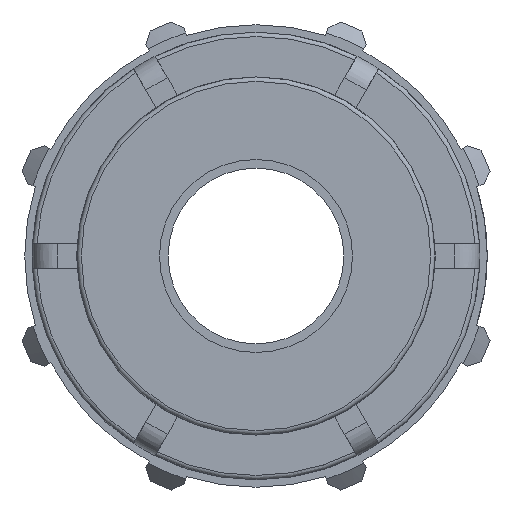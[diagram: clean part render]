
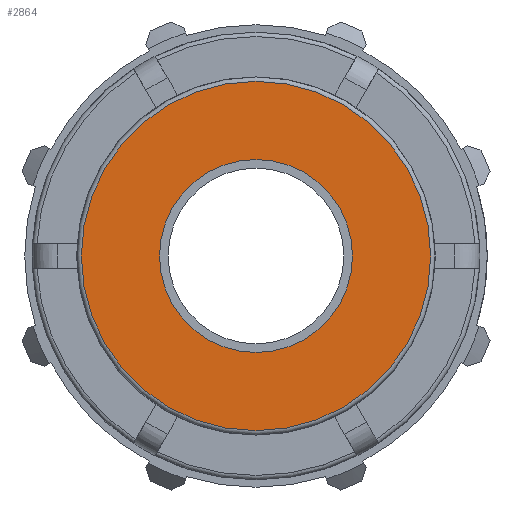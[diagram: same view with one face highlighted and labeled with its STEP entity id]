
A CAD part, left-side view. The second image highlights one B-rep face of the part: STEP entity #2864.
In plain terms, the highlighted planar face has unit normal (-1, 0, 0).
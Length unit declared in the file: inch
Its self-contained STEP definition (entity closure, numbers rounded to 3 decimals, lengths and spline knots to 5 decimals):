
#66=FACE_BOUND('',#814,.T.);
#549=PLANE('',#3106);
#659=FACE_OUTER_BOUND('',#813,.T.);
#813=EDGE_LOOP('',(#2161,#2162));
#814=EDGE_LOOP('',(#2163,#2164));
#973=CIRCLE('',#3103,0.66371);
#974=CIRCLE('',#3104,0.66371);
#976=CIRCLE('',#3107,0.36675);
#977=CIRCLE('',#3108,0.36675);
#1224=VERTEX_POINT('',#4779);
#1225=VERTEX_POINT('',#4781);
#1226=VERTEX_POINT('',#4786);
#1227=VERTEX_POINT('',#4787);
#1570=EDGE_CURVE('',#1224,#1225,#973,.T.);
#1571=EDGE_CURVE('',#1225,#1224,#974,.T.);
#1573=EDGE_CURVE('',#1226,#1227,#976,.T.);
#1574=EDGE_CURVE('',#1227,#1226,#977,.T.);
#2161=ORIENTED_EDGE('',*,*,#1571,.F.);
#2162=ORIENTED_EDGE('',*,*,#1570,.F.);
#2163=ORIENTED_EDGE('',*,*,#1573,.T.);
#2164=ORIENTED_EDGE('',*,*,#1574,.T.);
#2864=ADVANCED_FACE('',(#659,#66),#549,.T.);
#3103=AXIS2_PLACEMENT_3D('',#4782,#3631,#3632);
#3104=AXIS2_PLACEMENT_3D('',#4783,#3633,#3634);
#3106=AXIS2_PLACEMENT_3D('',#4785,#3637,#3638);
#3107=AXIS2_PLACEMENT_3D('',#4788,#3639,#3640);
#3108=AXIS2_PLACEMENT_3D('',#4789,#3641,#3642);
#3631=DIRECTION('center_axis',(1.,0.,0.));
#3632=DIRECTION('ref_axis',(0.,-1.,0.));
#3633=DIRECTION('center_axis',(1.,0.,0.));
#3634=DIRECTION('ref_axis',(0.,-1.,0.));
#3637=DIRECTION('center_axis',(-1.,0.,0.));
#3638=DIRECTION('ref_axis',(0.,0.,1.));
#3639=DIRECTION('center_axis',(1.,0.,0.));
#3640=DIRECTION('ref_axis',(0.,0.,-1.));
#3641=DIRECTION('center_axis',(1.,0.,0.));
#3642=DIRECTION('ref_axis',(0.,0.,-1.));
#4779=CARTESIAN_POINT('',(0.,0.,0.66371));
#4781=CARTESIAN_POINT('',(0.,0.66371,0.));
#4782=CARTESIAN_POINT('Origin',(0.,0.,0.));
#4783=CARTESIAN_POINT('Origin',(0.,0.,0.));
#4785=CARTESIAN_POINT('Origin',(0.,0.6804,0.));
#4786=CARTESIAN_POINT('',(0.,0.36675,0.));
#4787=CARTESIAN_POINT('',(0.,-0.36675,0.));
#4788=CARTESIAN_POINT('Origin',(0.,0.,0.));
#4789=CARTESIAN_POINT('Origin',(0.,0.,0.));
